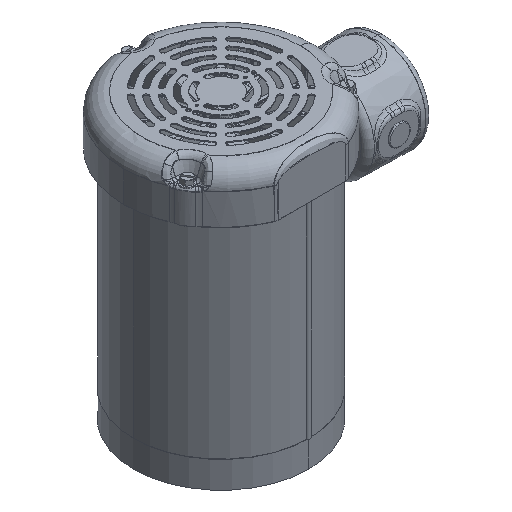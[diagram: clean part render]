
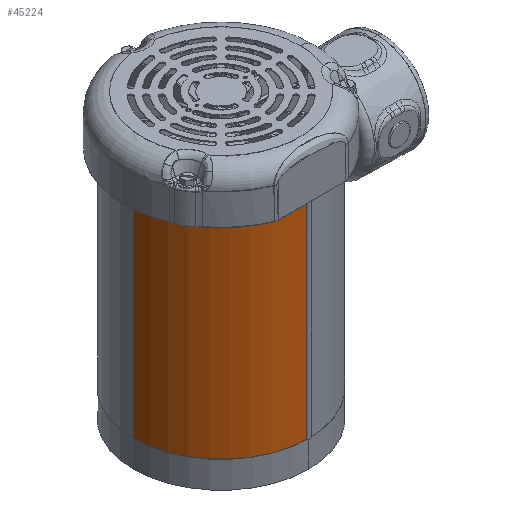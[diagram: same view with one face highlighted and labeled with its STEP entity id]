
A CAD part, isometric view. The second image highlights one B-rep face of the part: STEP entity #45224.
In plain terms, the highlighted cylindrical face has radius 83.249 mm (diameter 166.497 mm), a partial arc.
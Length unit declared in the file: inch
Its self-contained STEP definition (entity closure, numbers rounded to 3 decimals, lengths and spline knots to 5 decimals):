
#3201 = CYLINDRICAL_SURFACE ( 'NONE', #119332, 3.2775 ) ;
#4225 = CARTESIAN_POINT ( 'NONE',  ( -0.09, -3.27626, 0. ) ) ;
#7552 = DIRECTION ( 'NONE',  ( 0., 0., 1. ) ) ;
#8942 = VERTEX_POINT ( 'NONE', #4225 ) ;
#10214 = LINE ( 'NONE', #54219, #37563 ) ;
#14866 = EDGE_CURVE ( 'NONE', #76539, #8942, #103675, .T. ) ;
#20602 = EDGE_LOOP ( 'NONE', ( #54655, #58294, #61672, #69341 ) ) ;
#21326 = DIRECTION ( 'NONE',  ( 0., 0., 1. ) ) ;
#27291 = CARTESIAN_POINT ( 'NONE',  ( 0., 0., -7.75 ) ) ;
#32848 = EDGE_CURVE ( 'NONE', #42785, #76539, #10214, .T. ) ;
#37563 = VECTOR ( 'NONE', #43887, 39.37008 ) ;
#42785 = VERTEX_POINT ( 'NONE', #101975 ) ;
#43887 = DIRECTION ( 'NONE',  ( 0., 0., 1. ) ) ;
#45224 = ADVANCED_FACE ( 'NONE', ( #121963 ), #3201, .T. ) ;
#51857 = DIRECTION ( 'NONE',  ( 0., 0., 1. ) ) ;
#54219 = CARTESIAN_POINT ( 'NONE',  ( -3.2775, 0., -7.75 ) ) ;
#54655 = ORIENTED_EDGE ( 'NONE', *, *, #32848, .F. ) ;
#58294 = ORIENTED_EDGE ( 'NONE', *, *, #82714, .T. ) ;
#59643 = VECTOR ( 'NONE', #51857, 39.37008 ) ;
#61232 = EDGE_CURVE ( 'NONE', #63883, #8942, #86935, .T. ) ;
#61672 = ORIENTED_EDGE ( 'NONE', *, *, #61232, .T. ) ;
#63883 = VERTEX_POINT ( 'NONE', #113656 ) ;
#66609 = AXIS2_PLACEMENT_3D ( 'NONE', #125383, #125110, #125087 ) ;
#69341 = ORIENTED_EDGE ( 'NONE', *, *, #14866, .F. ) ;
#74768 = CIRCLE ( 'NONE', #84802, 3.2775 ) ;
#76539 = VERTEX_POINT ( 'NONE', #78629 ) ;
#78629 = CARTESIAN_POINT ( 'NONE',  ( -3.2775, 0., 0. ) ) ;
#82714 = EDGE_CURVE ( 'NONE', #42785, #63883, #74768, .T. ) ;
#82886 = CARTESIAN_POINT ( 'NONE',  ( 0., 0., -7.75 ) ) ;
#84802 = AXIS2_PLACEMENT_3D ( 'NONE', #82886, #21326, #93117 ) ;
#86935 = LINE ( 'NONE', #132973, #59643 ) ;
#93117 = DIRECTION ( 'NONE',  ( 1., 0., 0. ) ) ;
#101975 = CARTESIAN_POINT ( 'NONE',  ( -3.2775, 0., -7.75 ) ) ;
#103675 = CIRCLE ( 'NONE', #66609, 3.2775 ) ;
#113656 = CARTESIAN_POINT ( 'NONE',  ( -0.09, -3.27626, -7.75 ) ) ;
#119332 = AXIS2_PLACEMENT_3D ( 'NONE', #27291, #7552, #129918 ) ;
#121963 = FACE_OUTER_BOUND ( 'NONE', #20602, .T. ) ;
#125087 = DIRECTION ( 'NONE',  ( 1., 0., 0. ) ) ;
#125110 = DIRECTION ( 'NONE',  ( 0., 0., 1. ) ) ;
#125383 = CARTESIAN_POINT ( 'NONE',  ( 0., 0., 0. ) ) ;
#129918 = DIRECTION ( 'NONE',  ( 1., 0., 0. ) ) ;
#132973 = CARTESIAN_POINT ( 'NONE',  ( -0.09, -3.27626, -7.75 ) ) ;
